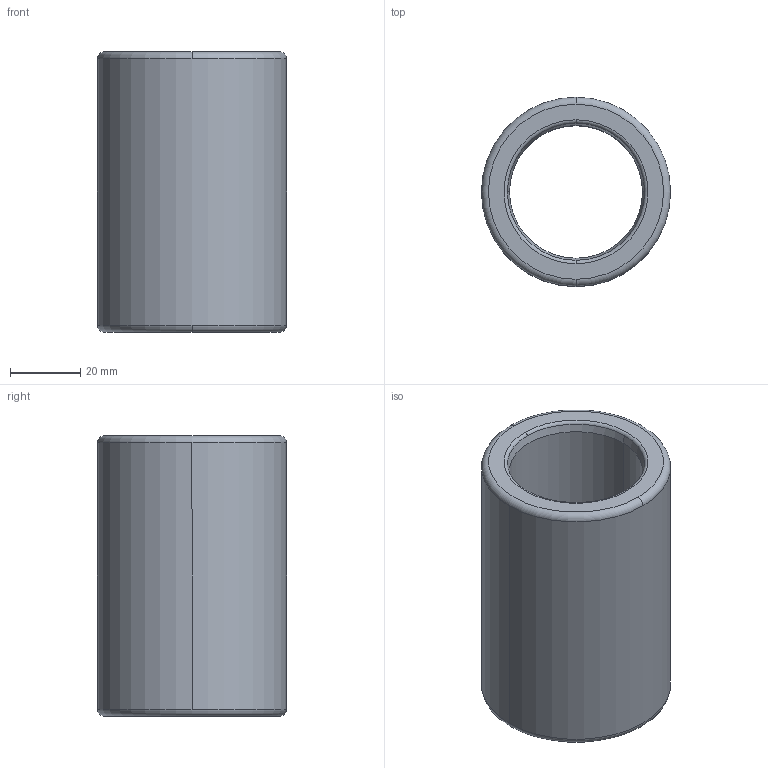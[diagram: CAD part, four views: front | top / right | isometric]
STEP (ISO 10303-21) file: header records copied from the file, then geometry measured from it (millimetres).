
FILE_DESCRIPTION((''),'2;1');
FILE_NAME('B30_030_080.stp','2009-01-12T10:00:47',(''),(''),'Mechanical Desktop 2009','Mechanical Desktop 2009',', , ');
FILE_SCHEMA(('CONFIG_CONTROL_DESIGN'));
Length unit declared in the file: millimetre
Products named in the file (2): Product; blmdl1
Assembly tree (1 placements, depth 2):
  Product
    blmdl1
Bounding box: 53.99 x 53.99 x 80 mm (x, y, z)
Volume: 91959.4 mm3; surface area: 24916.9 mm2
Topology: 1 solids, 1 shells, 18 faces, 48 edges, 32 vertices
Faces by surface type: torus 8, cylinder 4, cone 4, plane 2
Entity records: 705 total; most frequent: DIRECTION 128, CARTESIAN_POINT 100, ORIENTED_EDGE 96, AXIS2_PLACEMENT_3D 60, EDGE_CURVE 48, CIRCLE 40, VERTEX_POINT 32, EDGE_LOOP 20
